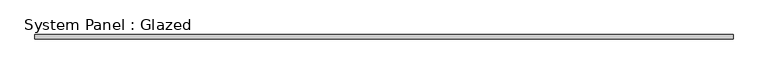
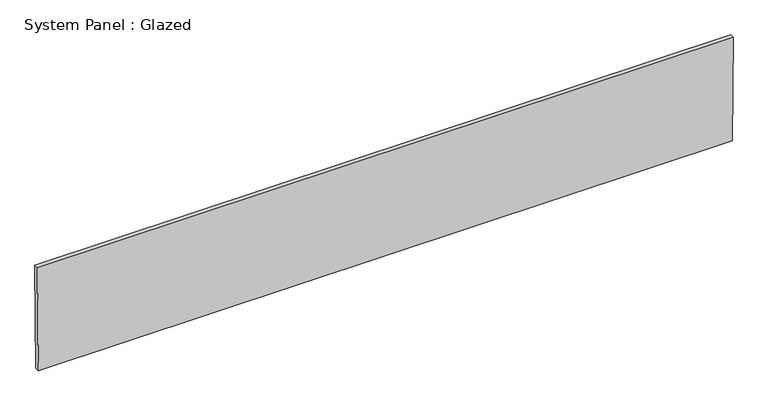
"""IFC4 building model written with IfcOpenShell, lengths in millimetres: plate geometry, System Panel : Glazed."""

import ifcopenshell
import ifcopenshell.guid

model = None  # the IFC model being written
_history = None  # IfcOwnerHistory: only IFC2X3 demands one
_inside = {}  # id of a spatial element -> (the spatial element, [elements in it])
_under = {}  # id of a project, library or spatial element -> (it, [spatial elements below it])
_declared = {}  # id of a project -> (the project, [libraries it declares])
_typed = {}  # id of a type object -> (the type object, [elements of that type])
_made_of = {}  # id of a material, layer set ... -> (it, [elements and type objects made of it])


def new_model(schema):
    """Start an empty IFC model of exactly this schema.

    Asked for "IFC4X3", IfcOpenShell would pick the latest addendum, in which some entities
    have other attributes; the version numbers below select the first issue.
    IFC2X3 requires an IfcOwnerHistory on every rooted entity: one is made here for all.
    """
    global model, _history
    if schema == "IFC4X3":
        model = ifcopenshell.file(schema_version=(4, 3, 0, 0))
    else:
        model = ifcopenshell.file(schema=schema)
    _inside.clear()
    _under.clear()
    _declared.clear()
    _typed.clear()
    _made_of.clear()
    _history = None
    if model.schema == "IFC2X3":
        org = make("IfcOrganization", Name="unknown")
        user = make(
            "IfcPersonAndOrganization",
            ThePerson=make("IfcPerson", FamilyName="unknown"),
            TheOrganization=org,
        )
        app = make(
            "IfcApplication",
            ApplicationDeveloper=org,
            Version="unknown",
            ApplicationFullName="unknown",
            ApplicationIdentifier="unknown",
        )
        _history = make(
            "IfcOwnerHistory",
            OwningUser=user,
            OwningApplication=app,
            ChangeAction="ADDED",
            CreationDate=0,
        )
    return model


def make(cls, **values):
    """One entity of the class cls with the attributes given. An attribute that is None is left unset."""
    return model.create_entity(
        cls, **{name: value for name, value in values.items() if value is not None}
    )


def rooted(cls, **values):
    """An entity with a GlobalId (a new one), such as an element, a storey or a relation."""
    return make(cls, GlobalId=ifcopenshell.guid.new(), OwnerHistory=_history, **values)


def si_unit(unit_type, name, prefix=None):
    """IfcSIUnit, for example si_unit("LENGTHUNIT", "METRE", prefix="MILLI")."""
    return make("IfcSIUnit", UnitType=unit_type, Prefix=prefix, Name=name)


def assignment(units):
    """IfcUnitAssignment: the units of a project."""
    return None if units is None else make("IfcUnitAssignment", Units=units)


def point(xyz):
    """IfcCartesianPoint."""
    return None if xyz is None else make("IfcCartesianPoint", Coordinates=xyz)


def direction(xyz):
    """IfcDirection."""
    return None if xyz is None else make("IfcDirection", DirectionRatios=xyz)


def frame(location, z_axis=None, x_axis=None):
    """IfcAxis2Placement3D, a coordinate frame: its origin and axes. An axis left out is left unset."""
    return make(
        "IfcAxis2Placement3D",
        Location=point(location),
        Axis=direction(z_axis),
        RefDirection=direction(x_axis),
    )


def origin():
    """The frame at (0, 0, 0) with its axes left unset."""
    return frame((0.0, 0.0, 0.0))


def place(relative_to, where):
    """IfcLocalPlacement: puts the frame where relative to a parent placement (None: the world)."""
    return make(
        "IfcLocalPlacement", PlacementRelTo=relative_to, RelativePlacement=where
    )


def context(
    kind, dimensions, precision=None, world=None, true_north=None, identifier=None
):
    """IfcGeometricRepresentationContext, for example the 3D "Model" context."""
    return make(
        "IfcGeometricRepresentationContext",
        ContextIdentifier=identifier,
        ContextType=kind,
        CoordinateSpaceDimension=dimensions,
        Precision=precision,
        WorldCoordinateSystem=world,
        TrueNorth=true_north,
    )


def project(units=None, contexts=None):
    """IfcProject with its units and contexts."""
    return rooted(
        "IfcProject",
        Name="project",
        RepresentationContexts=contexts,
        UnitsInContext=assignment(units),
    )


def spatial(cls, under=None, at=None, **own):
    """A site, building, storey or space (cls), placed at a placement, below another one or the project."""
    s = rooted(cls, ObjectPlacement=at, **own)
    if under is not None:
        _under.setdefault(under.id(), (under, []))[1].append(s)
    return s


def polyline(points):
    """IfcPolyline through the points."""
    return make("IfcPolyline", Points=[point(p) for p in points])


def outline(outer, holes=None, kind="AREA"):
    """IfcArbitraryClosedProfileDef: a profile drawn as a closed curve; with holes, ...WithVoids."""
    if holes is None:
        return make("IfcArbitraryClosedProfileDef", ProfileType=kind, OuterCurve=outer)
    return make(
        "IfcArbitraryProfileDefWithVoids",
        ProfileType=kind,
        OuterCurve=outer,
        InnerCurves=holes,
    )


def extrude(swept, where, along, depth):
    """IfcExtrudedAreaSolid: the profile swept, set in the frame where, extruded along a direction by depth."""
    return make(
        "IfcExtrudedAreaSolid",
        SweptArea=swept,
        Position=where,
        ExtrudedDirection=direction(along),
        Depth=depth,
    )


def shape(context_of_items, identifier, shape_type, items):
    """IfcShapeRepresentation: the items that make up one representation, for example the "Body"."""
    return make(
        "IfcShapeRepresentation",
        ContextOfItems=context_of_items,
        RepresentationIdentifier=identifier,
        RepresentationType=shape_type,
        Items=items,
    )


def source(mapping_origin, context_of_items, identifier, shape_type, items):
    """IfcRepresentationMap: a shape defined once, which mapped items show again and again."""
    return make(
        "IfcRepresentationMap",
        MappingOrigin=mapping_origin,
        MappedRepresentation=shape(context_of_items, identifier, shape_type, items),
    )


def transform(
    local_origin,
    x_axis=None,
    y_axis=None,
    z_axis=None,
    scale=None,
    scale2=None,
    scale3=None,
    uniform=True,
):
    """IfcCartesianTransformationOperator3D, or its non-uniform kind. x_axis, y_axis, z_axis: its Axis1, 2, 3."""
    if uniform:
        return make(
            "IfcCartesianTransformationOperator3D",
            Axis1=direction(x_axis),
            Axis2=direction(y_axis),
            LocalOrigin=point(local_origin),
            Scale=scale,
            Axis3=direction(z_axis),
        )
    return make(
        "IfcCartesianTransformationOperator3DnonUniform",
        Axis1=direction(x_axis),
        Axis2=direction(y_axis),
        LocalOrigin=point(local_origin),
        Scale=scale,
        Axis3=direction(z_axis),
        Scale2=scale2,
        Scale3=scale3,
    )


def mapped(mapping_source, mapping_target):
    """IfcMappedItem: shows the shape of a source again, moved by a transform."""
    return make(
        "IfcMappedItem", MappingSource=mapping_source, MappingTarget=mapping_target
    )


def made_of(thing, what):
    """Note that an element or type object is made of a material, layer set ...; save() writes the relation."""
    if what is not None:
        _made_of.setdefault(what.id(), (what, []))[1].append(thing)
    return thing


def element(
    cls,
    number,
    at=None,
    inside=None,
    cuts=None,
    type_object=None,
    material=None,
    context=None,
    identifier="Body",
    shape_type=None,
    held_by="IfcProductDefinitionShape",
    body=None,
    shapes=None,
    **own,
):
    """One element of the class cls, such as IfcWall. Its Tag is "e" and its number.

    at: its placement. inside: the storey or other place that contains it. cuts: it is an
    opening in that element (IfcRelVoidsElement). A single representation is given by context,
    identifier, shape_type and body (its items); several are given by shapes. held_by: the class
    of the entity that holds the representations. save() writes the other relations.
    """
    e = rooted(cls, Tag="e%d" % number, ObjectPlacement=at, **own)
    if body is not None:
        shapes = [shape(context, identifier, shape_type, body)]
    if shapes is not None:
        e.Representation = make(held_by, Representations=shapes)
    if inside is not None:
        _inside.setdefault(inside.id(), (inside, []))[1].append(e)
    if cuts is not None:
        rooted(
            "IfcRelVoidsElement", RelatingBuildingElement=cuts, RelatedOpeningElement=e
        )
    if type_object is not None:
        _typed.setdefault(type_object.id(), (type_object, []))[1].append(e)
    return made_of(e, material)


def aggregate(whole, parts):
    """IfcRelAggregates: a whole, such as a stair, and the parts it consists of."""
    return rooted("IfcRelAggregates", RelatingObject=whole, RelatedObjects=parts)


def save(model, path):
    """Write the relations noted so far, then the file.

    IfcRelAggregates (storeys below a building ...), IfcRelContainedInSpatialStructure (elements
    in a storey), IfcRelDefinesByType, IfcRelAssociatesMaterial and IfcRelDeclares: one each for
    every whole, place, type object, material and project.
    """
    for whole, parts in _under.values():
        aggregate(whole, parts)
    for where, things in _inside.values():
        rooted(
            "IfcRelContainedInSpatialStructure",
            RelatedElements=things,
            RelatingStructure=where,
        )
    for kind, things in _typed.values():
        rooted("IfcRelDefinesByType", RelatedObjects=things, RelatingType=kind)
    for what, things in _made_of.values():
        rooted("IfcRelAssociatesMaterial", RelatedObjects=things, RelatingMaterial=what)
    for by, libraries in _declared.values():
        rooted("IfcRelDeclares", RelatingContext=by, RelatedDefinitions=libraries)
    model.write(path)


def system_panel_glazed_c29e8d54(model_context):
    return source(origin(), model_context, "Body", "SweptSolid", [
        extrude(outline(polyline([(0.0, -1990.7093222), (0.0, 1990.7093222), (625.9212495, 1995.3843883), (625.9212495, -1995.3843883), (0.0, -1990.7093222)])), frame((0.0, -44.45, 0.0), z_axis=(0.0, 1.0, 0.0), x_axis=(0.0, 0.0, 1.0)), (0.0, 0.0, 1.0), 25.4),
    ])


if __name__ == "__main__":
    model = new_model("IFC4")
    model_context = context("Model", 3, world=origin())
    ifc_project = project(units=[si_unit("LENGTHUNIT", "METRE", prefix="MILLI")], contexts=[model_context])
    site = spatial("IfcSite", under=ifc_project)
    building = spatial("IfcBuilding", under=site)
    placement = place(None, origin())
    system_panel_glazed_shape = system_panel_glazed_c29e8d54(model_context)
    element("IfcPlate", 1, ObjectType="System Panel : Glazed", at=placement, inside=building, context=model_context, shape_type="MappedRepresentation", body=[
        mapped(system_panel_glazed_shape, transform((0.0, 0.0, 0.0), x_axis=(1.0, 0.0, 0.0), y_axis=(0.0, 1.0, 0.0), z_axis=(0.0, 0.0, 1.0))),
    ])
    save(model, "model.ifc")
